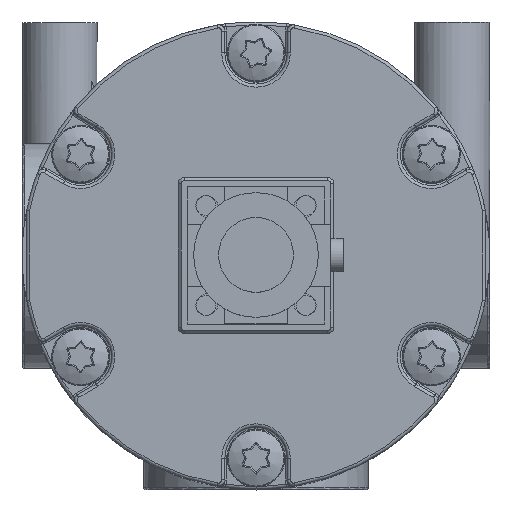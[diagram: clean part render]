
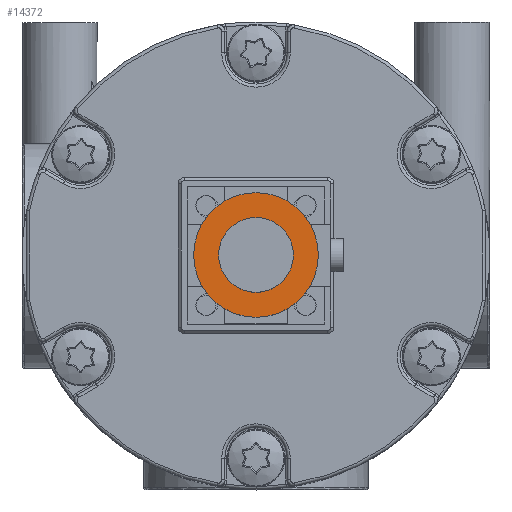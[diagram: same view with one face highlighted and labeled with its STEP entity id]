
A CAD part, top view. The second image highlights one B-rep face of the part: STEP entity #14372.
In plain terms, the highlighted planar face has unit normal (0, 0, 1).
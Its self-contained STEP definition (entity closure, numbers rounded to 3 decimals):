
#278=FACE_BOUND('',#4092,.T.);
#520=PLANE('',#16094);
#3213=FACE_OUTER_BOUND('',#4091,.T.);
#4091=EDGE_LOOP('',(#12536,#12537));
#4092=EDGE_LOOP('',(#12538,#12539));
#5299=CIRCLE('',#16092,6.);
#5300=CIRCLE('',#16093,6.);
#5301=CIRCLE('',#16095,10.);
#5302=CIRCLE('',#16096,10.);
#6533=VERTEX_POINT('',#29764);
#6534=VERTEX_POINT('',#29766);
#6535=VERTEX_POINT('',#29770);
#6536=VERTEX_POINT('',#29771);
#8548=EDGE_CURVE('',#6533,#6534,#5299,.T.);
#8549=EDGE_CURVE('',#6534,#6533,#5300,.T.);
#8550=EDGE_CURVE('',#6535,#6536,#5301,.T.);
#8551=EDGE_CURVE('',#6536,#6535,#5302,.T.);
#12536=ORIENTED_EDGE('',*,*,#8550,.T.);
#12537=ORIENTED_EDGE('',*,*,#8551,.T.);
#12538=ORIENTED_EDGE('',*,*,#8549,.F.);
#12539=ORIENTED_EDGE('',*,*,#8548,.F.);
#14372=ADVANCED_FACE('',(#3213,#278),#520,.T.);
#16092=AXIS2_PLACEMENT_3D('',#29767,#20245,#20246);
#16093=AXIS2_PLACEMENT_3D('',#29768,#20247,#20248);
#16094=AXIS2_PLACEMENT_3D('',#29769,#20249,#20250);
#16095=AXIS2_PLACEMENT_3D('',#29772,#20251,#20252);
#16096=AXIS2_PLACEMENT_3D('',#29773,#20253,#20254);
#20245=DIRECTION('center_axis',(0.,0.,
1.));
#20246=DIRECTION('ref_axis',(0.,1.,0.));
#20247=DIRECTION('center_axis',(0.,0.,
1.));
#20248=DIRECTION('ref_axis',(0.,1.,0.));
#20249=DIRECTION('center_axis',(0.,0.,
1.));
#20250=DIRECTION('ref_axis',(0.,1.,0.));
#20251=DIRECTION('center_axis',(0.,0.,
1.));
#20252=DIRECTION('ref_axis',(0.,1.,0.));
#20253=DIRECTION('center_axis',(0.,0.,
1.));
#20254=DIRECTION('ref_axis',(0.,1.,0.));
#29764=CARTESIAN_POINT('',(0.,-6.,106.8));
#29766=CARTESIAN_POINT('',(0.,6.,106.8));
#29767=CARTESIAN_POINT('Origin',(0.,0.,
106.8));
#29768=CARTESIAN_POINT('Origin',(0.,0.,
106.8));
#29769=CARTESIAN_POINT('Origin',(0.,8.,
106.8));
#29770=CARTESIAN_POINT('',(0.,10.,106.8));
#29771=CARTESIAN_POINT('',(0.,-10.,106.8));
#29772=CARTESIAN_POINT('Origin',(0.,0.,
106.8));
#29773=CARTESIAN_POINT('Origin',(0.,0.,
106.8));
